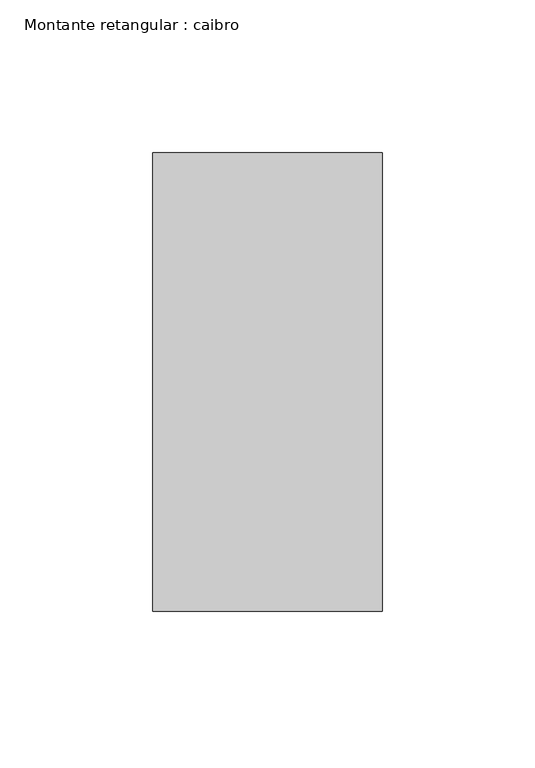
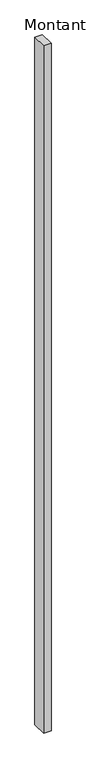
"""IFC4 building model written with IfcOpenShell, lengths in millimetres: member geometry, Montante retangular : caibro."""

from ifc_helpers import new_model, si_unit, frame, origin, place, context, project, spatial, polyline, outline, extrude, source, transform, mapped, element, save


def montante_retangular_caibro_c91b11ce(model_context):
    return source(origin(), model_context, "Body", "SweptSolid", [
        extrude(outline(polyline([(75.0, 75.0), (75.0, -75.0), (0.0, -75.0), (0.0, 75.0), (75.0, 75.0)])), frame((0.0, 0.0, -7288.0957915), z_axis=(0.0, 0.0, 1.0), x_axis=(1.0, 0.0, 0.0)), (0.0, 0.0, 1.0), 7288.0957915),
    ])


if __name__ == "__main__":
    model = new_model("IFC4")
    model_context = context("Model", 3, world=origin())
    ifc_project = project(units=[si_unit("LENGTHUNIT", "METRE", prefix="MILLI")], contexts=[model_context])
    site = spatial("IfcSite", under=ifc_project)
    building = spatial("IfcBuilding", under=site)
    placement = place(None, origin())
    montante_retangular_caibro_shape = montante_retangular_caibro_c91b11ce(model_context)
    element("IfcMember", 1, ObjectType="Montante retangular : caibro", at=placement, inside=building, context=model_context, shape_type="MappedRepresentation", body=[
        mapped(montante_retangular_caibro_shape, transform((0.0, 0.0, 0.0), x_axis=(1.0, 0.0, 0.0), y_axis=(0.0, 1.0, 0.0), z_axis=(0.0, 0.0, 1.0))),
    ])
    save(model, "model.ifc")
